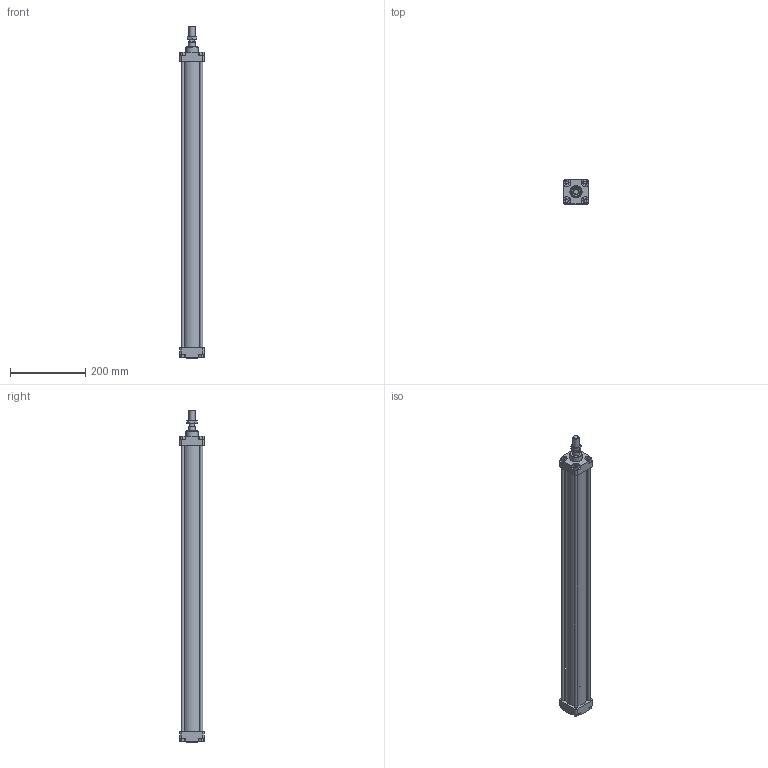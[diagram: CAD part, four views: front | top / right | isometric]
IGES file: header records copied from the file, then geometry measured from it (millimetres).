
Global section: file name: 1303_050_0700_01A; native system: Autodesk Inventor 2014; preprocessor: unknown; author: A. Manieri; date: 20161123.150313; units: millimetre
Bounding box: 65 x 65 x 882 mm (x, y, z)
Volume: 905114.6 mm3; surface area: 428838.5 mm2
Topology: 9 solids, 9 shells, 163 faces, 401 edges, 268 vertices
Faces by surface type: bspline 163
